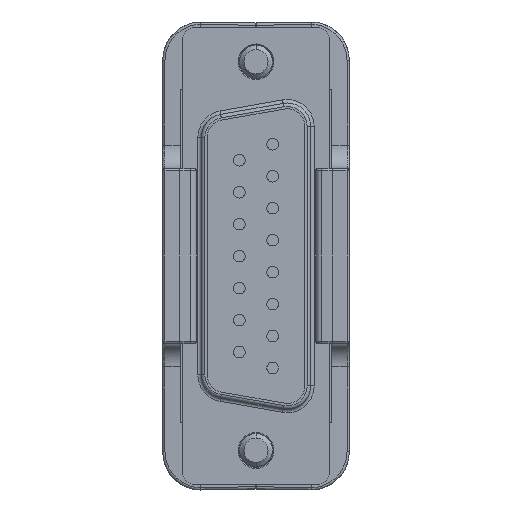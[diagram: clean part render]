
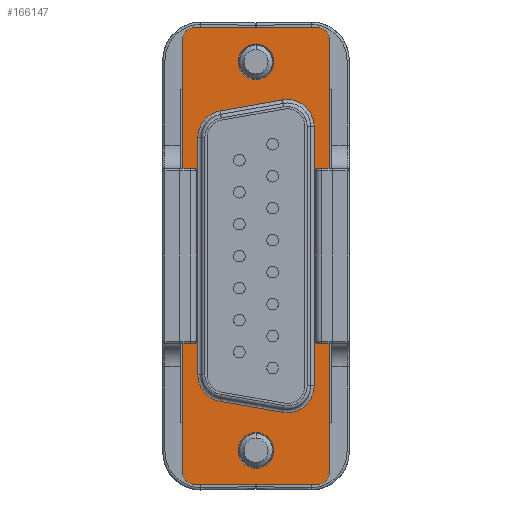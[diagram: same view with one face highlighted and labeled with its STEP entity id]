
A CAD part, left-side view. The second image highlights one B-rep face of the part: STEP entity #166147.
In plain terms, the highlighted planar face has unit normal (-1, 0, 0) as drawn and (0, 0, 1) by its records, which use the part's own axes.
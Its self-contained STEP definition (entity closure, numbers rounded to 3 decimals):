
#163474=DIRECTION('',(1.,0.,0.));
#163475=VECTOR('',#163474,37.14);
#163476=CARTESIAN_POINT('',(-18.57,6.275,0.));
#163477=LINE('',#163476,#163475);
#163478=DIRECTION('',(0.,-1.,0.));
#163479=VECTOR('',#163478,10.55);
#163480=CARTESIAN_POINT('',(19.57,5.275,0.));
#163481=LINE('',#163480,#163479);
#163482=DIRECTION('',(-1.,0.,0.));
#163483=VECTOR('',#163482,37.14);
#163484=CARTESIAN_POINT('',(18.57,-6.275,0.));
#163485=LINE('',#163484,#163483);
#163486=DIRECTION('',(0.,1.,0.));
#163487=VECTOR('',#163486,10.55);
#163488=CARTESIAN_POINT('',(-19.57,-5.275,0.));
#163489=LINE('',#163488,#163487);
#163490=CARTESIAN_POINT('',(16.66,0.,0.));
#163491=DIRECTION('',(0.,0.,1.));
#163492=DIRECTION('',(1.,0.,0.));
#163493=AXIS2_PLACEMENT_3D('',#163490,#163491,#163492);
#163495=CARTESIAN_POINT('',(16.66,0.,0.));
#163496=DIRECTION('',(0.,0.,1.));
#163497=DIRECTION('',(-1.,0.,0.));
#163498=AXIS2_PLACEMENT_3D('',#163495,#163496,#163497);
#163500=CARTESIAN_POINT('',(-16.66,0.,0.));
#163501=DIRECTION('',(0.,0.,1.));
#163502=DIRECTION('',(1.,0.,0.));
#163503=AXIS2_PLACEMENT_3D('',#163500,#163501,#163502);
#163505=CARTESIAN_POINT('',(-16.66,0.,0.));
#163506=DIRECTION('',(0.,0.,1.));
#163507=DIRECTION('',(-1.,0.,0.));
#163508=AXIS2_PLACEMENT_3D('',#163505,#163506,#163507);
#163709=CARTESIAN_POINT('',(-18.57,5.275,0.));
#163710=DIRECTION('',(0.,0.,1.));
#163711=DIRECTION('',(0.,1.,0.));
#163712=AXIS2_PLACEMENT_3D('',#163709,#163710,#163711);
#163727=CARTESIAN_POINT('',(-18.57,-5.275,0.));
#163728=DIRECTION('',(0.,0.,1.));
#163729=DIRECTION('',(-1.,0.,0.));
#163730=AXIS2_PLACEMENT_3D('',#163727,#163728,#163729);
#163745=CARTESIAN_POINT('',(18.57,-5.275,0.));
#163746=DIRECTION('',(0.,0.,1.));
#163747=DIRECTION('',(0.,-1.,0.));
#163748=AXIS2_PLACEMENT_3D('',#163745,#163746,#163747);
#163763=CARTESIAN_POINT('',(18.57,5.275,0.));
#163764=DIRECTION('',(0.,0.,1.));
#163765=DIRECTION('',(1.,0.,0.));
#163766=AXIS2_PLACEMENT_3D('',#163763,#163764,#163765);
#165112=DIRECTION('',(0.174,0.985,0.));
#165113=VECTOR('',#165112,5.443);
#165114=CARTESIAN_POINT('',(12.445,-3.079,0.));
#165115=LINE('',#165114,#165113);
#165125=CARTESIAN_POINT('',(10.18,-2.68,0.));
#165126=DIRECTION('',(0.,0.,1.));
#165127=DIRECTION('',(0.,-1.,0.));
#165128=AXIS2_PLACEMENT_3D('',#165125,#165126,#165127);
#165140=DIRECTION('',(1.,0.,0.));
#165141=VECTOR('',#165140,20.36);
#165142=CARTESIAN_POINT('',(-10.18,-4.98,0.));
#165143=LINE('',#165142,#165141);
#165153=CARTESIAN_POINT('',(-10.18,-2.68,0.));
#165154=DIRECTION('',(0.,0.,1.));
#165155=DIRECTION('',(-0.985,-0.174,0.));
#165156=AXIS2_PLACEMENT_3D('',#165153,#165154,#165155);
#165168=DIRECTION('',(0.174,-0.985,0.));
#165169=VECTOR('',#165168,5.443);
#165170=CARTESIAN_POINT('',(-13.39,2.281,0.));
#165171=LINE('',#165170,#165169);
#165181=CARTESIAN_POINT('',(-11.125,2.68,0.));
#165182=DIRECTION('',(0.,0.,1.));
#165183=DIRECTION('',(0.,1.,0.));
#165184=AXIS2_PLACEMENT_3D('',#165181,#165182,#165183);
#165196=DIRECTION('',(-1.,0.,0.));
#165197=VECTOR('',#165196,22.25);
#165198=CARTESIAN_POINT('',(11.125,4.98,0.));
#165199=LINE('',#165198,#165197);
#165209=CARTESIAN_POINT('',(11.125,2.68,0.));
#165210=DIRECTION('',(0.,0.,1.));
#165211=DIRECTION('',(0.985,-0.174,0.));
#165212=AXIS2_PLACEMENT_3D('',#165209,#165210,#165211);
#165495=CARTESIAN_POINT('',(-19.57,5.275,0.));
#165497=VERTEX_POINT('',#165495);
#165500=CARTESIAN_POINT('',(-18.57,6.275,0.));
#165501=VERTEX_POINT('',#165500);
#165503=CARTESIAN_POINT('',(-18.57,-6.275,0.));
#165505=VERTEX_POINT('',#165503);
#165508=CARTESIAN_POINT('',(-19.57,-5.275,0.));
#165509=VERTEX_POINT('',#165508);
#165511=CARTESIAN_POINT('',(18.57,6.275,0.));
#165513=VERTEX_POINT('',#165511);
#165516=CARTESIAN_POINT('',(19.57,5.275,0.));
#165517=VERTEX_POINT('',#165516);
#165519=CARTESIAN_POINT('',(19.57,-5.275,0.));
#165521=VERTEX_POINT('',#165519);
#165524=CARTESIAN_POINT('',(18.57,-6.275,0.));
#165525=VERTEX_POINT('',#165524);
#165526=CARTESIAN_POINT('',(18.185,0.,0.));
#165527=CARTESIAN_POINT('',(15.135,0.,0.));
#165528=VERTEX_POINT('',#165526);
#165529=VERTEX_POINT('',#165527);
#165530=CARTESIAN_POINT('',(-15.135,0.,0.));
#165531=CARTESIAN_POINT('',(-18.185,0.,0.));
#165532=VERTEX_POINT('',#165530);
#165533=VERTEX_POINT('',#165531);
#165574=CARTESIAN_POINT('',(11.125,4.98,0.));
#165575=CARTESIAN_POINT('',(-11.125,4.98,0.));
#165576=VERTEX_POINT('',#165574);
#165577=VERTEX_POINT('',#165575);
#165582=CARTESIAN_POINT('',(-13.39,2.281,
0.));
#165583=VERTEX_POINT('',#165582);
#165586=CARTESIAN_POINT('',(-12.445,-3.079,0.));
#165587=VERTEX_POINT('',#165586);
#165590=CARTESIAN_POINT('',(-10.18,-4.98,
0.));
#165591=VERTEX_POINT('',#165590);
#165594=CARTESIAN_POINT('',(10.18,-4.98,0.));
#165595=VERTEX_POINT('',#165594);
#165598=CARTESIAN_POINT('',(12.445,-3.079,
0.));
#165599=VERTEX_POINT('',#165598);
#165602=CARTESIAN_POINT('',(13.39,2.281,0.));
#165603=VERTEX_POINT('',#165602);
#166094=CARTESIAN_POINT('',(0.,0.,0.));
#166095=DIRECTION('',(0.,0.,-1.));
#166096=DIRECTION('',(-1.,0.,0.));
#166097=AXIS2_PLACEMENT_3D('',#166094,#166095,#166096);
#166098=PLANE('',#166097);
#166100=ORIENTED_EDGE('',*,*,#166099,.F.);
#166102=ORIENTED_EDGE('',*,*,#166101,.T.);
#166104=ORIENTED_EDGE('',*,*,#166103,.F.);
#166106=ORIENTED_EDGE('',*,*,#166105,.T.);
#166108=ORIENTED_EDGE('',*,*,#166107,.F.);
#166110=ORIENTED_EDGE('',*,*,#166109,.T.);
#166112=ORIENTED_EDGE('',*,*,#166111,.F.);
#166114=ORIENTED_EDGE('',*,*,#166113,.T.);
#166115=EDGE_LOOP('',(#166100,#166102,#166104,#166106,#166108,#166110,#166112,
#166114));
#166116=FACE_OUTER_BOUND('',#166115,.F.);
#166118=ORIENTED_EDGE('',*,*,#166117,.T.);
#166120=ORIENTED_EDGE('',*,*,#166119,.T.);
#166121=EDGE_LOOP('',(#166118,#166120));
#166122=FACE_BOUND('',#166121,.F.);
#166124=ORIENTED_EDGE('',*,*,#166123,.T.);
#166126=ORIENTED_EDGE('',*,*,#166125,.T.);
#166127=EDGE_LOOP('',(#166124,#166126));
#166128=FACE_BOUND('',#166127,.F.);
#166130=ORIENTED_EDGE('',*,*,#166129,.T.);
#166132=ORIENTED_EDGE('',*,*,#166131,.T.);
#166134=ORIENTED_EDGE('',*,*,#166133,.T.);
#166136=ORIENTED_EDGE('',*,*,#166135,.T.);
#166138=ORIENTED_EDGE('',*,*,#166137,.T.);
#166140=ORIENTED_EDGE('',*,*,#166139,.T.);
#166142=ORIENTED_EDGE('',*,*,#166141,.T.);
#166144=ORIENTED_EDGE('',*,*,#166143,.T.);
#166145=EDGE_LOOP('',(#166130,#166132,#166134,#166136,#166138,#166140,#166142,
#166144));
#166146=FACE_BOUND('',#166145,.F.);
#166147=ADVANCED_FACE('',(#166116,#166122,#166128,#166146),#166098,.F.);
#163494=CIRCLE('',#163493,1.525);
#163499=CIRCLE('',#163498,1.525);
#163504=CIRCLE('',#163503,1.525);
#163509=CIRCLE('',#163508,1.525);
#163713=CIRCLE('',#163712,1.);
#163731=CIRCLE('',#163730,1.);
#163749=CIRCLE('',#163748,1.);
#163767=CIRCLE('',#163766,1.);
#165129=CIRCLE('',#165128,2.3);
#165157=CIRCLE('',#165156,2.3);
#165185=CIRCLE('',#165184,2.3);
#165213=CIRCLE('',#165212,2.3);
#166099=EDGE_CURVE('',#165501,#165497,#163713,.T.);
#166101=EDGE_CURVE('',#165501,#165513,#163477,.T.);
#166103=EDGE_CURVE('',#165517,#165513,#163767,.T.);
#166105=EDGE_CURVE('',#165517,#165521,#163481,.T.);
#166107=EDGE_CURVE('',#165525,#165521,#163749,.T.);
#166109=EDGE_CURVE('',#165525,#165505,#163485,.T.);
#166111=EDGE_CURVE('',#165509,#165505,#163731,.T.);
#166113=EDGE_CURVE('',#165509,#165497,#163489,.T.);
#166117=EDGE_CURVE('',#165528,#165529,#163494,.T.);
#166119=EDGE_CURVE('',#165529,#165528,#163499,.T.);
#166123=EDGE_CURVE('',#165532,#165533,#163504,.T.);
#166125=EDGE_CURVE('',#165533,#165532,#163509,.T.);
#166129=EDGE_CURVE('',#165576,#165577,#165199,.T.);
#166131=EDGE_CURVE('',#165577,#165583,#165185,.T.);
#166133=EDGE_CURVE('',#165583,#165587,#165171,.T.);
#166135=EDGE_CURVE('',#165587,#165591,#165157,.T.);
#166137=EDGE_CURVE('',#165591,#165595,#165143,.T.);
#166139=EDGE_CURVE('',#165595,#165599,#165129,.T.);
#166141=EDGE_CURVE('',#165599,#165603,#165115,.T.);
#166143=EDGE_CURVE('',#165603,#165576,#165213,.T.);
